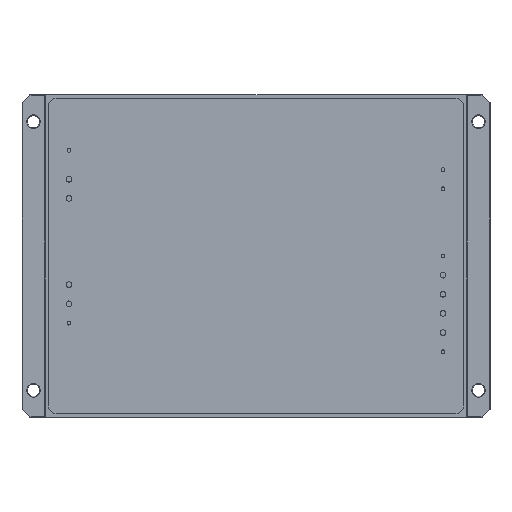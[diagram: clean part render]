
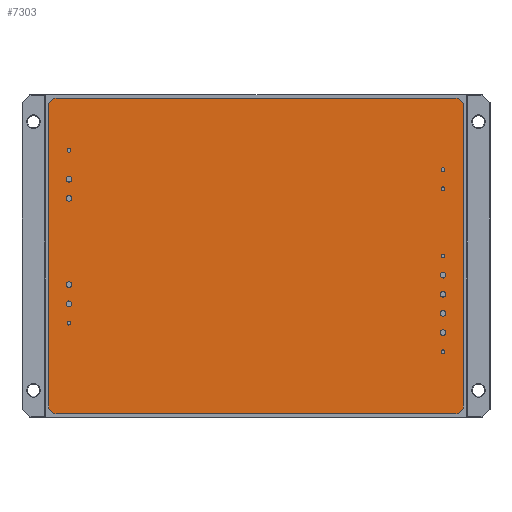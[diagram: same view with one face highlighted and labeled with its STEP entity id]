
A CAD part, top view. The second image highlights one B-rep face of the part: STEP entity #7303.
In plain terms, the highlighted planar face has unit normal (0, 0, 1).
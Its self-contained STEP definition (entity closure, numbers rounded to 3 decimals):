
#7303=ADVANCED_FACE('',(#13824,#13826,#13828,#13830,#13832,#13834,#13836,#13838,
#13840,#13842,#13844,#13846,#13848,#13850,#13852),#13854,.T.);
#13824=FACE_BOUND('',#13825,.T.);
#13825=EDGE_LOOP('',(#19195,#19196,#19197,#19198,#19199,#19200,#19201,#19202));
#13826=FACE_BOUND('',#13827,.T.);
#13827=EDGE_LOOP('',(#19203));
#13828=FACE_BOUND('',#13829,.T.);
#13829=EDGE_LOOP('',(#19204));
#13830=FACE_BOUND('',#13831,.T.);
#13831=EDGE_LOOP('',(#19205));
#13832=FACE_BOUND('',#13833,.T.);
#13833=EDGE_LOOP('',(#19206));
#13834=FACE_BOUND('',#13835,.T.);
#13835=EDGE_LOOP('',(#19207));
#13836=FACE_BOUND('',#13837,.T.);
#13837=EDGE_LOOP('',(#19208));
#13838=FACE_BOUND('',#13839,.T.);
#13839=EDGE_LOOP('',(#19209));
#13840=FACE_BOUND('',#13841,.T.);
#13841=EDGE_LOOP('',(#19210));
#13842=FACE_BOUND('',#13843,.T.);
#13843=EDGE_LOOP('',(#19211));
#13844=FACE_BOUND('',#13845,.T.);
#13845=EDGE_LOOP('',(#19212));
#13846=FACE_BOUND('',#13847,.T.);
#13847=EDGE_LOOP('',(#19213));
#13848=FACE_BOUND('',#13849,.T.);
#13849=EDGE_LOOP('',(#19214));
#13850=FACE_BOUND('',#13851,.T.);
#13851=EDGE_LOOP('',(#19215));
#13852=FACE_BOUND('',#13853,.T.);
#13853=EDGE_LOOP('',(#19216));
#13854=PLANE('',#13855);
#13855=AXIS2_PLACEMENT_3D('',#13856,#13857,#13858);
#13856=CARTESIAN_POINT('',(0.,0.,14.5));
#13857=DIRECTION('',(0.,0.,1.));
#13858=DIRECTION('',(1.,0.,0.));
#19195=ORIENTED_EDGE('',*,*,#21835,.T.);
#19196=ORIENTED_EDGE('',*,*,#21849,.T.);
#19197=ORIENTED_EDGE('',*,*,#21847,.T.);
#19198=ORIENTED_EDGE('',*,*,#21845,.T.);
#19199=ORIENTED_EDGE('',*,*,#21843,.T.);
#19200=ORIENTED_EDGE('',*,*,#21841,.T.);
#19201=ORIENTED_EDGE('',*,*,#21839,.T.);
#19202=ORIENTED_EDGE('',*,*,#21837,.T.);
#19203=ORIENTED_EDGE('',*,*,#21851,.F.);
#19204=ORIENTED_EDGE('',*,*,#21852,.F.);
#19205=ORIENTED_EDGE('',*,*,#21853,.F.);
#19206=ORIENTED_EDGE('',*,*,#21854,.F.);
#19207=ORIENTED_EDGE('',*,*,#21855,.F.);
#19208=ORIENTED_EDGE('',*,*,#21856,.F.);
#19209=ORIENTED_EDGE('',*,*,#21857,.F.);
#19210=ORIENTED_EDGE('',*,*,#21858,.F.);
#19211=ORIENTED_EDGE('',*,*,#21859,.F.);
#19212=ORIENTED_EDGE('',*,*,#21860,.F.);
#19213=ORIENTED_EDGE('',*,*,#21861,.F.);
#19214=ORIENTED_EDGE('',*,*,#21862,.F.);
#19215=ORIENTED_EDGE('',*,*,#21863,.F.);
#19216=ORIENTED_EDGE('',*,*,#21864,.F.);
#21835=EDGE_CURVE('',#25914,#25912,#25915,.T.);
#21837=EDGE_CURVE('',#25917,#25914,#25918,.T.);
#21839=EDGE_CURVE('',#25920,#25917,#25921,.T.);
#21841=EDGE_CURVE('',#25923,#25920,#25924,.T.);
#21843=EDGE_CURVE('',#25926,#25923,#25927,.T.);
#21845=EDGE_CURVE('',#25929,#25926,#25930,.T.);
#21847=EDGE_CURVE('',#25932,#25929,#25933,.T.);
#21849=EDGE_CURVE('',#25912,#25932,#25935,.T.);
#21851=EDGE_CURVE('',#25938,#25938,#25939,.T.);
#21852=EDGE_CURVE('',#25940,#25940,#25941,.T.);
#21853=EDGE_CURVE('',#25942,#25942,#25943,.T.);
#21854=EDGE_CURVE('',#25944,#25944,#25945,.T.);
#21855=EDGE_CURVE('',#25946,#25946,#25947,.T.);
#21856=EDGE_CURVE('',#25948,#25948,#25949,.T.);
#21857=EDGE_CURVE('',#25950,#25950,#25951,.T.);
#21858=EDGE_CURVE('',#25952,#25952,#25953,.T.);
#21859=EDGE_CURVE('',#25954,#25954,#25955,.T.);
#21860=EDGE_CURVE('',#25956,#25956,#25957,.T.);
#21861=EDGE_CURVE('',#25958,#25958,#25959,.T.);
#21862=EDGE_CURVE('',#25960,#25960,#25961,.T.);
#21863=EDGE_CURVE('',#25962,#25962,#25963,.T.);
#21864=EDGE_CURVE('',#25964,#25964,#25965,.T.);
#25912=VERTEX_POINT('',#36084);
#25914=VERTEX_POINT('',#36088);
#25915=CIRCLE('',#36089,2.);
#25917=VERTEX_POINT('',#36096);
#25918=LINE('',#36097,#36098);
#25920=VERTEX_POINT('',#36103);
#25921=CIRCLE('',#36104,2.);
#25923=VERTEX_POINT('',#36111);
#25924=LINE('',#36112,#36113);
#25926=VERTEX_POINT('',#36118);
#25927=CIRCLE('',#36119,2.);
#25929=VERTEX_POINT('',#36126);
#25930=LINE('',#36127,#36128);
#25932=VERTEX_POINT('',#36133);
#25933=CIRCLE('',#36134,2.);
#25935=LINE('',#36141,#36142);
#25938=VERTEX_POINT('',#36149);
#25939=CIRCLE('',#36150,0.75);
#25940=VERTEX_POINT('',#36154);
#25941=CIRCLE('',#36155,0.75);
#25942=VERTEX_POINT('',#36159);
#25943=CIRCLE('',#36160,0.75);
#25944=VERTEX_POINT('',#36164);
#25945=CIRCLE('',#36165,0.75);
#25946=VERTEX_POINT('',#36169);
#25947=CIRCLE('',#36170,0.75);
#25948=VERTEX_POINT('',#36174);
#25949=CIRCLE('',#36175,0.75);
#25950=VERTEX_POINT('',#36179);
#25951=CIRCLE('',#36180,0.75);
#25952=VERTEX_POINT('',#36184);
#25953=CIRCLE('',#36185,0.75);
#25954=VERTEX_POINT('',#36189);
#25955=CIRCLE('',#36190,0.5);
#25956=VERTEX_POINT('',#36194);
#25957=CIRCLE('',#36195,0.5);
#25958=VERTEX_POINT('',#36199);
#25959=CIRCLE('',#36200,0.5);
#25960=VERTEX_POINT('',#36204);
#25961=CIRCLE('',#36205,0.5);
#25962=VERTEX_POINT('',#36209);
#25963=CIRCLE('',#36210,0.5);
#25964=VERTEX_POINT('',#36214);
#25965=CIRCLE('',#36215,0.5);
#36084=CARTESIAN_POINT('',(115.1,2.9,14.5));
#36088=CARTESIAN_POINT('',(113.1,0.9,14.5));
#36089=AXIS2_PLACEMENT_3D('',#36090,#36091,#36092);
#36090=CARTESIAN_POINT('',(113.1,2.9,14.5));
#36091=DIRECTION('',(0.,0.,1.));
#36092=DIRECTION('',(0.,-1.,0.));
#36096=CARTESIAN_POINT('',(8.9,0.9,14.5));
#36097=CARTESIAN_POINT('',(8.9,0.9,14.5));
#36098=VECTOR('',#36099,1.);
#36099=DIRECTION('',(1.,0.,0.));
#36103=CARTESIAN_POINT('',(6.9,2.9,14.5));
#36104=AXIS2_PLACEMENT_3D('',#36105,#36106,#36107);
#36105=CARTESIAN_POINT('',(8.9,2.9,14.5));
#36106=DIRECTION('',(0.,0.,1.));
#36107=DIRECTION('',(-1.,0.,0.));
#36111=CARTESIAN_POINT('',(6.9,81.1,14.5));
#36112=CARTESIAN_POINT('',(6.9,81.1,14.5));
#36113=VECTOR('',#36114,1.);
#36114=DIRECTION('',(0.,-1.,0.));
#36118=CARTESIAN_POINT('',(8.9,83.1,14.5));
#36119=AXIS2_PLACEMENT_3D('',#36120,#36121,#36122);
#36120=CARTESIAN_POINT('',(8.9,81.1,14.5));
#36121=DIRECTION('',(0.,0.,1.));
#36122=DIRECTION('',(0.,1.,0.));
#36126=CARTESIAN_POINT('',(113.1,83.1,14.5));
#36127=CARTESIAN_POINT('',(113.1,83.1,14.5));
#36128=VECTOR('',#36129,1.);
#36129=DIRECTION('',(-1.,0.,0.));
#36133=CARTESIAN_POINT('',(115.1,81.1,14.5));
#36134=AXIS2_PLACEMENT_3D('',#36135,#36136,#36137);
#36135=CARTESIAN_POINT('',(113.1,81.1,14.5));
#36136=DIRECTION('',(0.,0.,1.));
#36137=DIRECTION('',(1.,0.,0.));
#36141=CARTESIAN_POINT('',(115.1,2.9,14.5));
#36142=VECTOR('',#36143,1.);
#36143=DIRECTION('',(0.,1.,0.));
#36149=CARTESIAN_POINT('',(13.,62.,14.5));
#36150=AXIS2_PLACEMENT_3D('',#36151,#36152,#36153);
#36151=CARTESIAN_POINT('',(12.25,62.,14.5));
#36152=DIRECTION('',(0.,0.,1.));
#36153=DIRECTION('',(1.,0.,0.));
#36154=CARTESIAN_POINT('',(13.,57.,14.5));
#36155=AXIS2_PLACEMENT_3D('',#36156,#36157,#36158);
#36156=CARTESIAN_POINT('',(12.25,57.,14.5));
#36157=DIRECTION('',(0.,0.,1.));
#36158=DIRECTION('',(1.,0.,0.));
#36159=CARTESIAN_POINT('',(13.,34.5,14.5));
#36160=AXIS2_PLACEMENT_3D('',#36161,#36162,#36163);
#36161=CARTESIAN_POINT('',(12.25,34.5,14.5));
#36162=DIRECTION('',(0.,0.,1.));
#36163=DIRECTION('',(1.,0.,0.));
#36164=CARTESIAN_POINT('',(13.,29.5,14.5));
#36165=AXIS2_PLACEMENT_3D('',#36166,#36167,#36168);
#36166=CARTESIAN_POINT('',(12.25,29.5,14.5));
#36167=DIRECTION('',(0.,0.,1.));
#36168=DIRECTION('',(1.,0.,0.));
#36169=CARTESIAN_POINT('',(110.5,22.,14.5));
#36170=AXIS2_PLACEMENT_3D('',#36171,#36172,#36173);
#36171=CARTESIAN_POINT('',(109.75,22.,14.5));
#36172=DIRECTION('',(0.,0.,1.));
#36173=DIRECTION('',(1.,0.,0.));
#36174=CARTESIAN_POINT('',(110.5,27.,14.5));
#36175=AXIS2_PLACEMENT_3D('',#36176,#36177,#36178);
#36176=CARTESIAN_POINT('',(109.75,27.,14.5));
#36177=DIRECTION('',(0.,0.,1.));
#36178=DIRECTION('',(1.,0.,0.));
#36179=CARTESIAN_POINT('',(110.5,32.,14.5));
#36180=AXIS2_PLACEMENT_3D('',#36181,#36182,#36183);
#36181=CARTESIAN_POINT('',(109.75,32.,14.5));
#36182=DIRECTION('',(0.,0.,1.));
#36183=DIRECTION('',(1.,0.,0.));
#36184=CARTESIAN_POINT('',(110.5,37.,14.5));
#36185=AXIS2_PLACEMENT_3D('',#36186,#36187,#36188);
#36186=CARTESIAN_POINT('',(109.75,37.,14.5));
#36187=DIRECTION('',(0.,0.,1.));
#36188=DIRECTION('',(1.,0.,0.));
#36189=CARTESIAN_POINT('',(12.75,69.5,14.5));
#36190=AXIS2_PLACEMENT_3D('',#36191,#36192,#36193);
#36191=CARTESIAN_POINT('',(12.25,69.5,14.5));
#36192=DIRECTION('',(0.,0.,1.));
#36193=DIRECTION('',(1.,0.,0.));
#36194=CARTESIAN_POINT('',(12.75,24.5,14.5));
#36195=AXIS2_PLACEMENT_3D('',#36196,#36197,#36198);
#36196=CARTESIAN_POINT('',(12.25,24.5,14.5));
#36197=DIRECTION('',(0.,0.,1.));
#36198=DIRECTION('',(1.,0.,0.));
#36199=CARTESIAN_POINT('',(110.25,17.,14.5));
#36200=AXIS2_PLACEMENT_3D('',#36201,#36202,#36203);
#36201=CARTESIAN_POINT('',(109.75,17.,14.5));
#36202=DIRECTION('',(0.,0.,1.));
#36203=DIRECTION('',(1.,0.,0.));
#36204=CARTESIAN_POINT('',(110.25,42.,14.5));
#36205=AXIS2_PLACEMENT_3D('',#36206,#36207,#36208);
#36206=CARTESIAN_POINT('',(109.75,42.,14.5));
#36207=DIRECTION('',(0.,0.,1.));
#36208=DIRECTION('',(1.,0.,0.));
#36209=CARTESIAN_POINT('',(110.25,59.5,14.5));
#36210=AXIS2_PLACEMENT_3D('',#36211,#36212,#36213);
#36211=CARTESIAN_POINT('',(109.75,59.5,14.5));
#36212=DIRECTION('',(0.,0.,1.));
#36213=DIRECTION('',(1.,0.,0.));
#36214=CARTESIAN_POINT('',(110.25,64.5,14.5));
#36215=AXIS2_PLACEMENT_3D('',#36216,#36217,#36218);
#36216=CARTESIAN_POINT('',(109.75,64.5,14.5));
#36217=DIRECTION('',(0.,0.,1.));
#36218=DIRECTION('',(1.,0.,0.));
